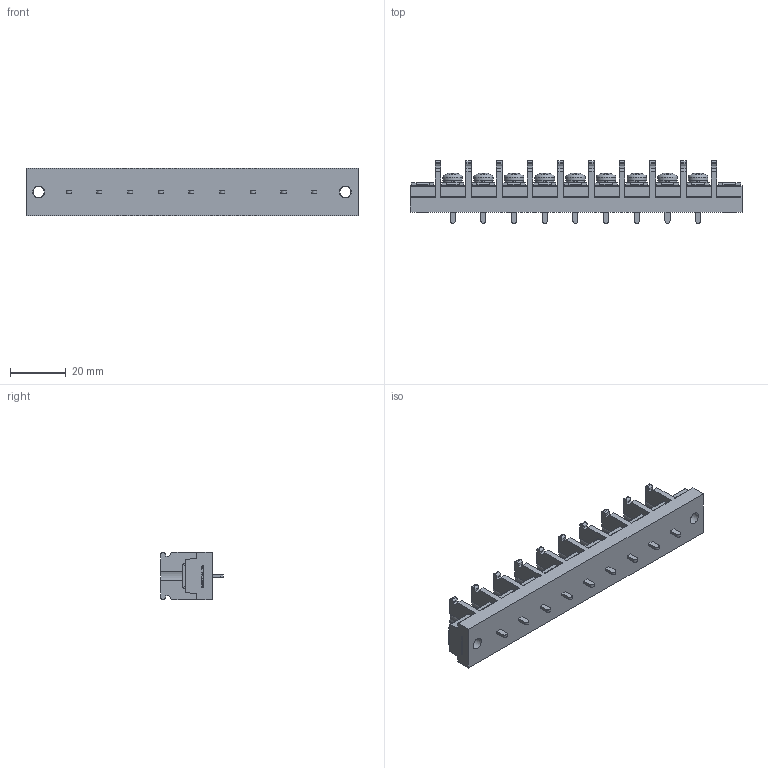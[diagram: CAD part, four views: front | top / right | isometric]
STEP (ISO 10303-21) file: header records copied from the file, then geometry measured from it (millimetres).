
FILE_DESCRIPTION(/* description */ ('Alibre Inc.'),/* implementation_level */ '2;1');
FILE_NAME(/* name */ 'export0',/* time_stamp */ '2015-10-19T19:10:43+09:00',/* author */ (''),/* organization */ (''),/* preprocessor_version */ 'ST-DEVELOPER v14',/* originating_system */ 'Alibre',/* authorisation */ '');
FILE_SCHEMA (('CONFIG_CONTROL_DESIGN'));
Length unit declared in the file: centimetre
Products named in the file (1): ID_1
Bounding box: 119 x 22.5 x 17 mm (x, y, z)
Volume: 21556.5 mm3; surface area: 12068.6 mm2
Topology: 1 solids, 1 shells, 1119 faces, 3113 edges, 2067 vertices
Faces by surface type: plane 786, cylinder 166, bspline 104, cone 36, torus 18, sphere 9
Full cylindrical faces by diameter (mm): 4 x11, 4.2 x2, 6.5 x9, 7 x9
Entity records: 34695 total; most frequent: CARTESIAN_POINT 7394, ORIENTED_EDGE 6088, DIRECTION 4572, EDGE_CURVE 3044, VECTOR 2148, LINE 2148, VERTEX_POINT 2038, AXIS2_PLACEMENT_3D 1600
